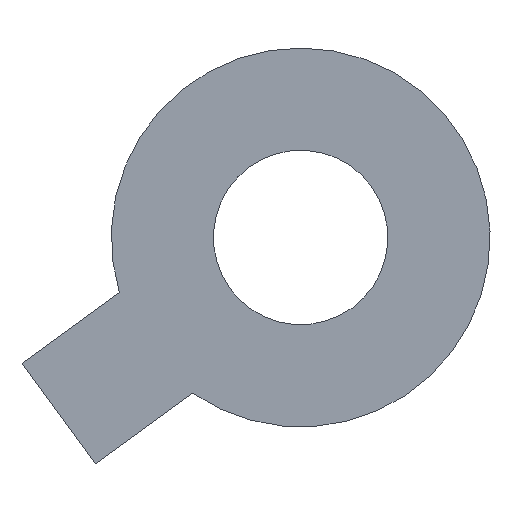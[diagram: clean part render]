
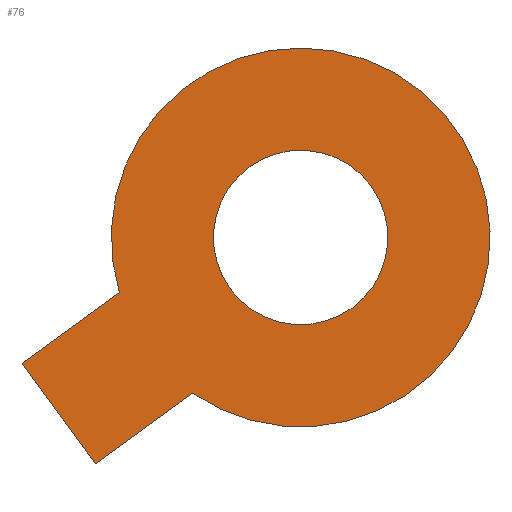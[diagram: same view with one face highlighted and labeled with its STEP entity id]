
A CAD part, left-side view. The second image highlights one B-rep face of the part: STEP entity #76.
In plain terms, the highlighted planar face has unit normal (-1, 0, 0).
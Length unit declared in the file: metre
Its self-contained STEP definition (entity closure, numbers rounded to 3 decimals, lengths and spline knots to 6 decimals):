
#12=PLANE('',#86);
#16=LINE('',#124,#23);
#17=LINE('',#126,#24);
#18=LINE('',#128,#25);
#23=VECTOR('',#102,1.);
#24=VECTOR('',#103,1.);
#25=VECTOR('',#104,1.);
#32=ORIENTED_EDGE('',*,*,#46,.T.);
#33=ORIENTED_EDGE('',*,*,#42,.T.);
#34=ORIENTED_EDGE('',*,*,#47,.T.);
#35=ORIENTED_EDGE('',*,*,#48,.T.);
#36=ORIENTED_EDGE('',*,*,#49,.F.);
#37=ORIENTED_EDGE('',*,*,#50,.F.);
#42=EDGE_CURVE('NONE',#53,#54,#62,.F.);
#46=EDGE_CURVE('NONE',#57,#53,#16,.T.);
#47=EDGE_CURVE('NONE',#54,#58,#17,.F.);
#48=EDGE_CURVE('NONE',#58,#57,#18,.T.);
#49=EDGE_CURVE('NONE',#59,#60,#64,.T.);
#50=EDGE_CURVE('NONE',#60,#59,#65,.T.);
#53=VERTEX_POINT('',#116);
#54=VERTEX_POINT('',#117);
#57=VERTEX_POINT('',#125);
#58=VERTEX_POINT('',#127);
#59=VERTEX_POINT('',#130);
#60=VERTEX_POINT('',#131);
#62=CIRCLE('',#84,0.00193);
#64=CIRCLE('',#87,0.000889);
#65=CIRCLE('',#88,0.000889);
#67=EDGE_LOOP('',(#32,#33,#34,#35));
#68=EDGE_LOOP('',(#36,#37));
#71=FACE_BOUND('',#67,.T.);
#72=FACE_BOUND('',#68,.T.);
#76=ADVANCED_FACE('NONE',(#71,#72),#12,.T.);
#84=AXIS2_PLACEMENT_3D('',#115,#94,#95);
#86=AXIS2_PLACEMENT_3D('',#123,#100,#101);
#87=AXIS2_PLACEMENT_3D('',#129,#105,#106);
#88=AXIS2_PLACEMENT_3D('',#132,#107,#108);
#94=DIRECTION('',(1.,0.,0.));
#95=DIRECTION('',(0.,1.,0.));
#100=DIRECTION('',(-1.,0.,0.));
#101=DIRECTION('',(0.,-0.588,-0.809));
#102=DIRECTION('',(0.,-0.809,0.588));
#103=DIRECTION('',(0.,-0.809,0.588));
#104=DIRECTION('',(0.,-0.588,-0.809));
#105=DIRECTION('',(-1.,0.,0.));
#106=DIRECTION('',(0.,0.588,0.809));
#107=DIRECTION('',(-1.,0.,0.));
#108=DIRECTION('',(0.,-0.588,-0.809));
#115=CARTESIAN_POINT('',(0.023601,-0.067117,0.006432));
#116=CARTESIAN_POINT('',(0.023601,-0.066017,0.004846));
#117=CARTESIAN_POINT('',(0.023601,-0.06527,0.005873));
#123=CARTESIAN_POINT('',(0.023601,-0.067117,0.006432));
#124=CARTESIAN_POINT('',(0.023601,-0.067491,0.005918));
#125=CARTESIAN_POINT('',(0.023601,-0.065025,0.004124));
#126=CARTESIAN_POINT('',(0.023601,-0.066744,0.006945));
#127=CARTESIAN_POINT('',(0.023601,-0.064277,0.005151));
#128=CARTESIAN_POINT('',(0.023601,-0.064651,0.004638));
#129=CARTESIAN_POINT('',(0.023601,-0.067117,0.006432));
#130=CARTESIAN_POINT('',(0.023601,-0.06764,0.005713));
#131=CARTESIAN_POINT('',(0.023601,-0.066594,0.007151));
#132=CARTESIAN_POINT('',(0.023601,-0.067117,0.006432));
